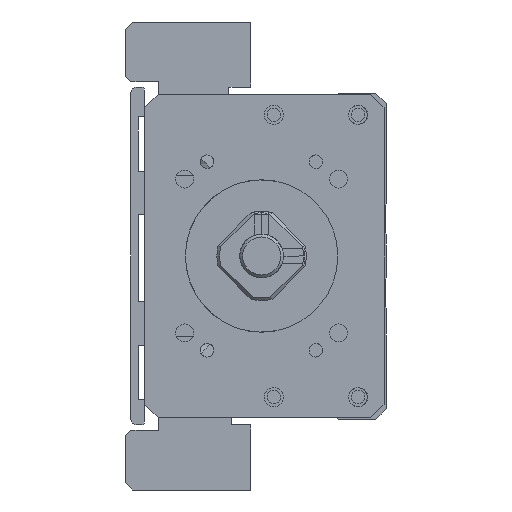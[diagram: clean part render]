
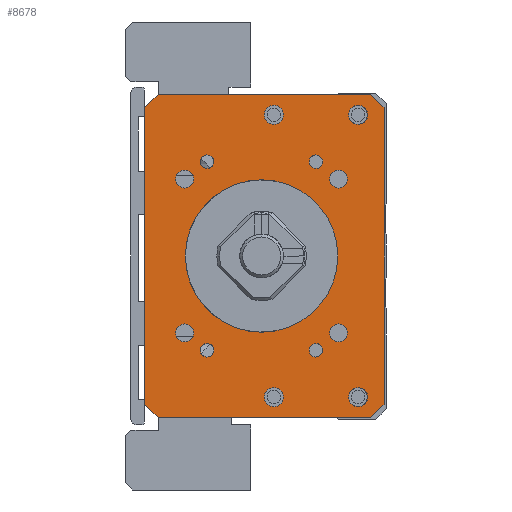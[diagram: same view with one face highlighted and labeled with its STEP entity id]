
A CAD part, left-side view. The second image highlights one B-rep face of the part: STEP entity #8678.
In plain terms, the highlighted planar face has unit normal (-1, 0, 0).
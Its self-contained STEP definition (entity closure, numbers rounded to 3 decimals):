
#8678=ADVANCED_FACE('',(#13633,#13634,#13635,#13636,#13637,#13638,#13639,
#13640,#13641,#13642,#13643,#13644,#13645,#13646),#9540,.F.);
#9540=PLANE('',#27227);
#11015=LINE('',#39081,#12666);
#11017=LINE('',#39105,#12668);
#11018=LINE('',#39107,#12669);
#11019=LINE('',#39109,#12670);
#11020=LINE('',#39111,#12671);
#11021=LINE('',#39113,#12672);
#11022=LINE('',#39115,#12673);
#11023=LINE('',#39117,#12674);
#12666=VECTOR('',#32047,1.);
#12668=VECTOR('',#32071,1.);
#12669=VECTOR('',#32072,1.);
#12670=VECTOR('',#32073,1.);
#12671=VECTOR('',#32074,1.);
#12672=VECTOR('',#32075,1.);
#12673=VECTOR('',#32076,1.);
#12674=VECTOR('',#32077,1.);
#13633=FACE_BOUND('',#15154,.T.);
#13634=FACE_BOUND('',#15155,.T.);
#13635=FACE_BOUND('',#15156,.T.);
#13636=FACE_BOUND('',#15157,.T.);
#13637=FACE_BOUND('',#15158,.T.);
#13638=FACE_BOUND('',#15159,.T.);
#13639=FACE_BOUND('',#15160,.T.);
#13640=FACE_BOUND('',#15161,.T.);
#13641=FACE_BOUND('',#15162,.T.);
#13642=FACE_BOUND('',#15163,.T.);
#13643=FACE_BOUND('',#15164,.T.);
#13644=FACE_BOUND('',#15165,.T.);
#13645=FACE_BOUND('',#15166,.T.);
#13646=FACE_BOUND('',#15167,.T.);
#15154=EDGE_LOOP('',(#19580));
#15155=EDGE_LOOP('',(#19581));
#15156=EDGE_LOOP('',(#19582));
#15157=EDGE_LOOP('',(#19583));
#15158=EDGE_LOOP('',(#19584));
#15159=EDGE_LOOP('',(#19585));
#15160=EDGE_LOOP('',(#19586));
#15161=EDGE_LOOP('',(#19587));
#15162=EDGE_LOOP('',(#19588));
#15163=EDGE_LOOP('',(#19589,#19590,#19591,#19592,#19593,#19594,#19595,#19596));
#15164=EDGE_LOOP('',(#19597));
#15165=EDGE_LOOP('',(#19598));
#15166=EDGE_LOOP('',(#19599));
#15167=EDGE_LOOP('',(#19600));
#19580=ORIENTED_EDGE('',*,*,#24509,.F.);
#19581=ORIENTED_EDGE('',*,*,#24510,.F.);
#19582=ORIENTED_EDGE('',*,*,#24511,.F.);
#19583=ORIENTED_EDGE('',*,*,#24512,.F.);
#19584=ORIENTED_EDGE('',*,*,#24513,.F.);
#19585=ORIENTED_EDGE('',*,*,#24514,.T.);
#19586=ORIENTED_EDGE('',*,*,#24515,.F.);
#19587=ORIENTED_EDGE('',*,*,#24516,.F.);
#19588=ORIENTED_EDGE('',*,*,#24517,.F.);
#19589=ORIENTED_EDGE('',*,*,#24506,.T.);
#19590=ORIENTED_EDGE('',*,*,#24518,.T.);
#19591=ORIENTED_EDGE('',*,*,#24519,.F.);
#19592=ORIENTED_EDGE('',*,*,#24520,.T.);
#19593=ORIENTED_EDGE('',*,*,#24521,.F.);
#19594=ORIENTED_EDGE('',*,*,#24522,.T.);
#19595=ORIENTED_EDGE('',*,*,#24523,.T.);
#19596=ORIENTED_EDGE('',*,*,#24524,.T.);
#19597=ORIENTED_EDGE('',*,*,#24525,.F.);
#19598=ORIENTED_EDGE('',*,*,#24526,.F.);
#19599=ORIENTED_EDGE('',*,*,#24527,.F.);
#19600=ORIENTED_EDGE('',*,*,#24486,.F.);
#22077=VERTEX_POINT('',#39020);
#22097=VERTEX_POINT('',#39080);
#22098=VERTEX_POINT('',#39082);
#22100=VERTEX_POINT('',#39088);
#22101=VERTEX_POINT('',#39090);
#22102=VERTEX_POINT('',#39092);
#22103=VERTEX_POINT('',#39094);
#22104=VERTEX_POINT('',#39096);
#22105=VERTEX_POINT('',#39098);
#22106=VERTEX_POINT('',#39100);
#22107=VERTEX_POINT('',#39102);
#22108=VERTEX_POINT('',#39104);
#22109=VERTEX_POINT('',#39106);
#22110=VERTEX_POINT('',#39108);
#22111=VERTEX_POINT('',#39110);
#22112=VERTEX_POINT('',#39112);
#22113=VERTEX_POINT('',#39114);
#22114=VERTEX_POINT('',#39116);
#22115=VERTEX_POINT('',#39119);
#22116=VERTEX_POINT('',#39121);
#22117=VERTEX_POINT('',#39123);
#24486=EDGE_CURVE('',#22077,#22077,#25527,.T.);
#24506=EDGE_CURVE('',#22098,#22097,#11015,.T.);
#24509=EDGE_CURVE('',#22100,#22100,#25536,.T.);
#24510=EDGE_CURVE('',#22101,#22101,#25537,.T.);
#24511=EDGE_CURVE('',#22102,#22102,#25538,.T.);
#24512=EDGE_CURVE('',#22103,#22103,#25539,.T.);
#24513=EDGE_CURVE('',#22104,#22104,#25540,.T.);
#24514=EDGE_CURVE('',#22105,#22105,#25541,.T.);
#24515=EDGE_CURVE('',#22106,#22106,#25542,.T.);
#24516=EDGE_CURVE('',#22107,#22107,#25543,.T.);
#24517=EDGE_CURVE('',#22108,#22108,#25544,.T.);
#24518=EDGE_CURVE('',#22097,#22109,#11017,.T.);
#24519=EDGE_CURVE('',#22110,#22109,#11018,.T.);
#24520=EDGE_CURVE('',#22110,#22111,#11019,.T.);
#24521=EDGE_CURVE('',#22112,#22111,#11020,.T.);
#24522=EDGE_CURVE('',#22112,#22113,#11021,.T.);
#24523=EDGE_CURVE('',#22113,#22114,#11022,.T.);
#24524=EDGE_CURVE('',#22114,#22098,#11023,.T.);
#24525=EDGE_CURVE('',#22115,#22115,#25545,.T.);
#24526=EDGE_CURVE('',#22116,#22116,#25546,.T.);
#24527=EDGE_CURVE('',#22117,#22117,#25547,.T.);
#25527=CIRCLE('',#27204,14.);
#25536=CIRCLE('',#27215,1.65);
#25537=CIRCLE('',#27216,1.65);
#25538=CIRCLE('',#27217,1.65);
#25539=CIRCLE('',#27218,1.65);
#25540=CIRCLE('',#27219,1.25);
#25541=CIRCLE('',#27220,1.75);
#25542=CIRCLE('',#27221,1.25);
#25543=CIRCLE('',#27222,1.75);
#25544=CIRCLE('',#27223,1.25);
#25545=CIRCLE('',#27224,1.75);
#25546=CIRCLE('',#27225,1.75);
#25547=CIRCLE('',#27226,1.25);
#27204=AXIS2_PLACEMENT_3D('',#39019,#32021,#32022);
#27215=AXIS2_PLACEMENT_3D('',#39087,#32053,#32054);
#27216=AXIS2_PLACEMENT_3D('',#39089,#32055,#32056);
#27217=AXIS2_PLACEMENT_3D('',#39091,#32057,#32058);
#27218=AXIS2_PLACEMENT_3D('',#39093,#32059,#32060);
#27219=AXIS2_PLACEMENT_3D('',#39095,#32061,#32062);
#27220=AXIS2_PLACEMENT_3D('',#39097,#32063,#32064);
#27221=AXIS2_PLACEMENT_3D('',#39099,#32065,#32066);
#27222=AXIS2_PLACEMENT_3D('',#39101,#32067,#32068);
#27223=AXIS2_PLACEMENT_3D('',#39103,#32069,#32070);
#27224=AXIS2_PLACEMENT_3D('',#39118,#32078,#32079);
#27225=AXIS2_PLACEMENT_3D('',#39120,#32080,#32081);
#27226=AXIS2_PLACEMENT_3D('',#39122,#32082,#32083);
#27227=AXIS2_PLACEMENT_3D('',#39124,#32084,#32085);
#32021=DIRECTION('',(-1.,0.,0.));
#32022=DIRECTION('',(0.,1.,0.));
#32047=DIRECTION('',(0.,0.,-1.));
#32053=DIRECTION('',(-1.,0.,0.));
#32054=DIRECTION('',(0.,0.,1.));
#32055=DIRECTION('',(-1.,0.,0.));
#32056=DIRECTION('',(0.,0.,1.));
#32057=DIRECTION('',(-1.,0.,0.));
#32058=DIRECTION('',(0.,0.,1.));
#32059=DIRECTION('',(-1.,0.,0.));
#32060=DIRECTION('',(0.,0.,1.));
#32061=DIRECTION('',(-1.,0.,0.));
#32062=DIRECTION('',(0.,1.,0.));
#32063=DIRECTION('',(1.,0.,0.));
#32064=DIRECTION('',(0.,0.,1.));
#32065=DIRECTION('',(-1.,0.,0.));
#32066=DIRECTION('',(0.,1.,0.));
#32067=DIRECTION('',(-1.,0.,0.));
#32068=DIRECTION('',(0.,0.,1.));
#32069=DIRECTION('',(-1.,0.,0.));
#32070=DIRECTION('',(0.,1.,0.));
#32071=DIRECTION('',(0.,-0.707,-0.707));
#32072=DIRECTION('',(0.,1.,0.));
#32073=DIRECTION('',(0.,-0.707,0.707));
#32074=DIRECTION('',(0.,0.,-1.));
#32075=DIRECTION('',(0.,0.707,0.707));
#32076=DIRECTION('',(0.,1.,0.));
#32077=DIRECTION('',(0.,0.707,-0.707));
#32078=DIRECTION('',(-1.,0.,0.));
#32079=DIRECTION('',(0.,0.,1.));
#32080=DIRECTION('',(-1.,0.,0.));
#32081=DIRECTION('',(0.,0.,1.));
#32082=DIRECTION('',(-1.,0.,0.));
#32083=DIRECTION('',(0.,1.,0.));
#32084=DIRECTION('',(1.,0.,0.));
#32085=DIRECTION('',(0.,1.,0.));
#39019=CARTESIAN_POINT('',(-211.,0.,0.));
#39020=CARTESIAN_POINT('',(-211.,14.,0.));
#39080=CARTESIAN_POINT('',(-211.,21.499,-27.25));
#39081=CARTESIAN_POINT('',(-211.,21.499,29.75));
#39082=CARTESIAN_POINT('',(-211.,21.499,27.25));
#39087=CARTESIAN_POINT('',(-211.,14.142,14.142));
#39088=CARTESIAN_POINT('',(-211.,14.142,15.792));
#39089=CARTESIAN_POINT('',(-211.,-14.142,14.142));
#39090=CARTESIAN_POINT('',(-211.,-14.142,15.792));
#39091=CARTESIAN_POINT('',(-211.,14.142,-14.142));
#39092=CARTESIAN_POINT('',(-211.,14.142,-12.492));
#39093=CARTESIAN_POINT('',(-211.,-14.142,-14.142));
#39094=CARTESIAN_POINT('',(-211.,-14.142,-12.492));
#39095=CARTESIAN_POINT('',(-211.,-10.,-17.321));
#39096=CARTESIAN_POINT('',(-211.,-8.75,-17.321));
#39097=CARTESIAN_POINT('',(-211.,-2.25,-25.936));
#39098=CARTESIAN_POINT('',(-211.,-2.25,-24.186));
#39099=CARTESIAN_POINT('',(-211.,10.,17.321));
#39100=CARTESIAN_POINT('',(-211.,11.25,17.321));
#39101=CARTESIAN_POINT('',(-211.,-2.25,25.936));
#39102=CARTESIAN_POINT('',(-211.,-2.25,27.686));
#39103=CARTESIAN_POINT('',(-211.,10.,-17.321));
#39104=CARTESIAN_POINT('',(-211.,11.25,-17.321));
#39105=CARTESIAN_POINT('',(-211.,18.999,-29.75));
#39106=CARTESIAN_POINT('',(-211.,18.999,-29.75));
#39107=CARTESIAN_POINT('',(-211.,-22.501,-29.75));
#39108=CARTESIAN_POINT('',(-211.,-20.001,-29.75));
#39109=CARTESIAN_POINT('',(-211.,-22.501,-27.25));
#39110=CARTESIAN_POINT('',(-211.,-22.501,-27.25));
#39111=CARTESIAN_POINT('',(-211.,-22.501,29.75));
#39112=CARTESIAN_POINT('',(-211.,-22.501,27.25));
#39113=CARTESIAN_POINT('',(-211.,-22.501,27.25));
#39114=CARTESIAN_POINT('',(-211.,-20.001,29.75));
#39115=CARTESIAN_POINT('',(-211.,-22.501,29.75));
#39116=CARTESIAN_POINT('',(-211.,18.999,29.75));
#39117=CARTESIAN_POINT('',(-211.,18.999,29.75));
#39118=CARTESIAN_POINT('',(-211.,-17.75,25.936));
#39119=CARTESIAN_POINT('',(-211.,-17.75,27.686));
#39120=CARTESIAN_POINT('',(-211.,-17.75,-25.936));
#39121=CARTESIAN_POINT('',(-211.,-17.75,-24.186));
#39122=CARTESIAN_POINT('',(-211.,-10.,17.321));
#39123=CARTESIAN_POINT('',(-211.,-8.75,17.321));
#39124=CARTESIAN_POINT('',(-211.,-22.501,29.75));
